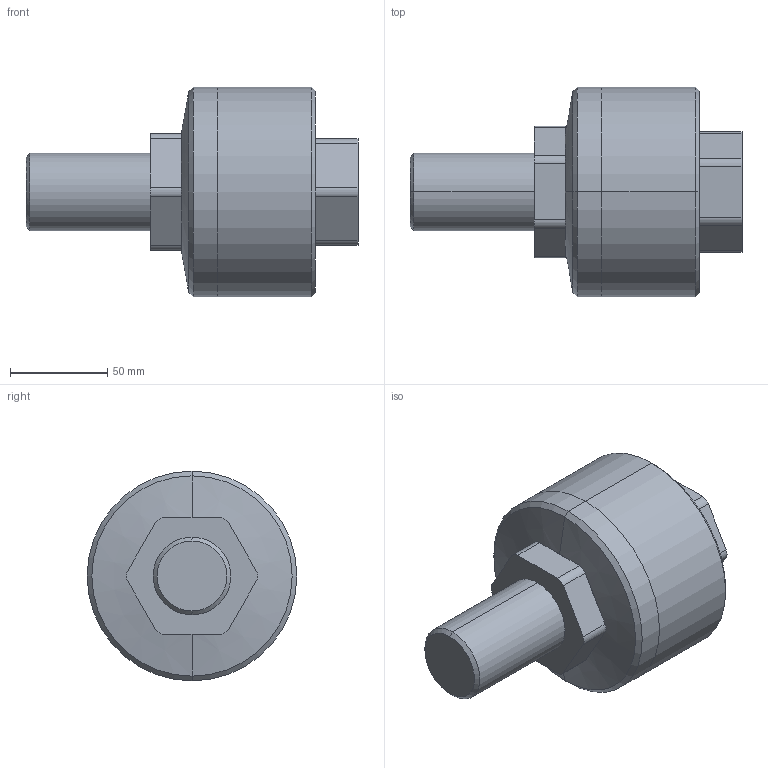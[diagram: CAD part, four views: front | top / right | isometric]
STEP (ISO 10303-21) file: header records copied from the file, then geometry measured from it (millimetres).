
FILE_DESCRIPTION (( 'STEP AP203' ), '1' );
FILE_NAME ('FCM40-1.5.STEP', '2016-03-23T03:43:16', ( 'Sam Lin' ), ( '' ), 'SwSTEP 2.0', 'SolidWorks 2013', '' );
FILE_SCHEMA (( 'CONFIG_CONTROL_DESIGN' ));
Length unit declared in the file: millimetre
Products named in the file (1): FCM40-1.5
Bounding box: 171 x 108 x 108 mm (x, y, z)
Volume: 770661.8 mm3; surface area: 58750.9 mm2
Topology: 1 solids, 1 shells, 51 faces, 120 edges, 74 vertices
Faces by surface type: plane 23, cylinder 20, cone 8
Entity records: 1537 total; most frequent: DIRECTION 274, CARTESIAN_POINT 246, ORIENTED_EDGE 240, EDGE_CURVE 120, AXIS2_PLACEMENT_3D 102, VERTEX_POINT 74, VECTOR 70, LINE 70
